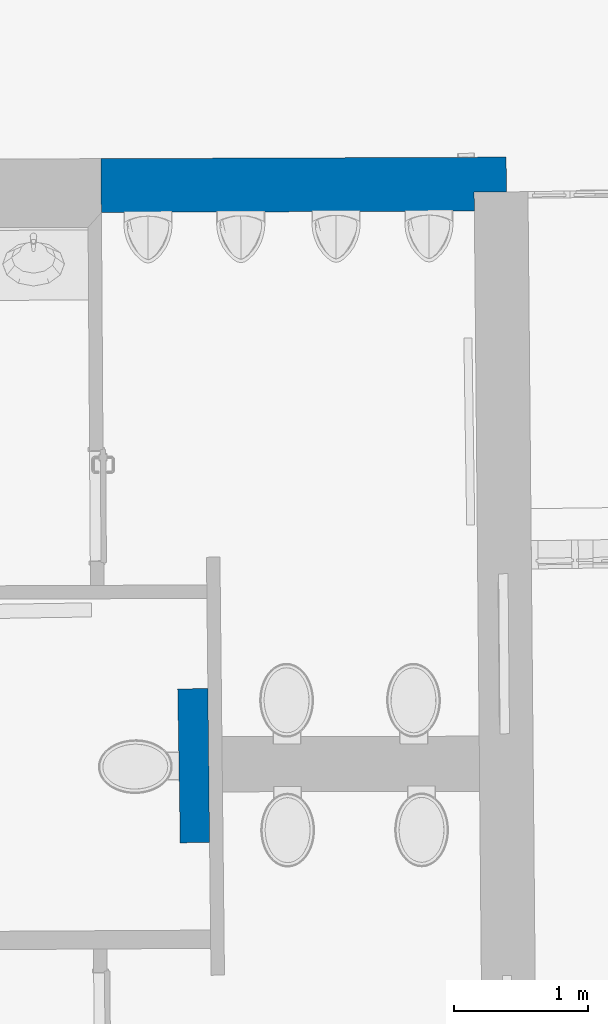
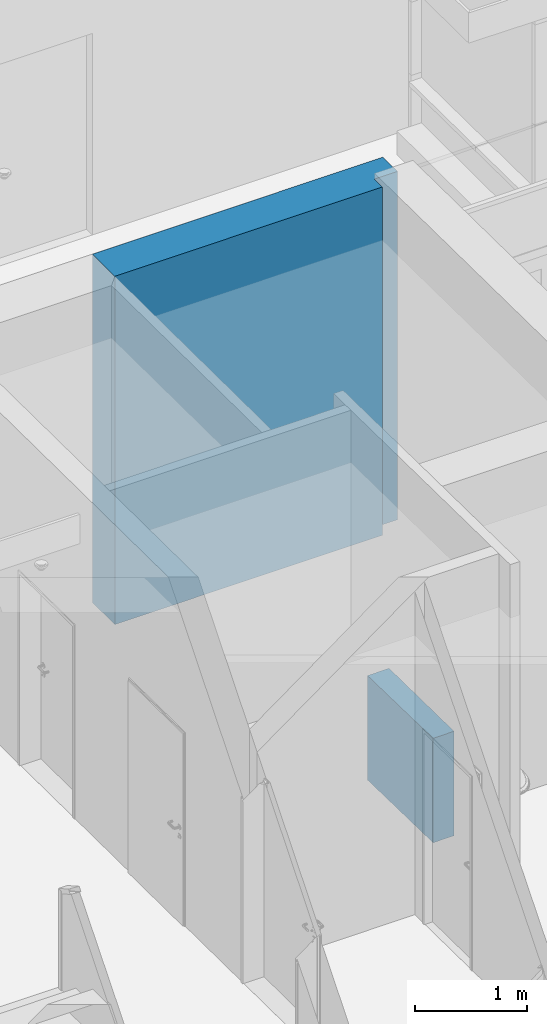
# One storey, part 77 of 196: 2 walls.
"""IFC2X3 building model written with IfcOpenShell, lengths in metres."""

from ifc_helpers import new_model, entity, si_unit, converted_unit, derived_unit, money_unit, direction, frame, origin_with_axes, place, context, subcontext, project, spatial, polyline, outline, extrude, boolean, faceted_brep, material, type_object, element, save


model = new_model("IFC2X3")

# Units and contexts
model_context = context("Model", 3, precision=1e-05, world=origin_with_axes(), true_north=direction((0.0, 1.0)))
body_context = subcontext(model_context, "Body", "Model", "MODEL_VIEW")
ifc_project = project(units=[si_unit("LENGTHUNIT", "METRE"), si_unit("AREAUNIT", "SQUARE_METRE"), si_unit("VOLUMEUNIT", "CUBIC_METRE"), converted_unit("PLANEANGLEUNIT", "DEGREE", entity("IfcPlaneAngleMeasure", 0.0174532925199), si_unit("PLANEANGLEUNIT", "RADIAN"), dimensions=[0, 0, 0, 0, 0, 0, 0]), money_unit("EUR"), converted_unit("TIMEUNIT", "Year", entity("IfcTimeMeasure", 31556926.0), si_unit("TIMEUNIT", "SECOND"), dimensions=[0, 0, 1, 0, 0, 0, 0]), si_unit("MASSUNIT", "GRAM", prefix="KILO"), si_unit("THERMODYNAMICTEMPERATUREUNIT", "DEGREE_CELSIUS"), si_unit("LUMINOUSINTENSITYUNIT", "LUMEN"), si_unit("ENERGYUNIT", "JOULE", prefix="MEGA"), derived_unit("THERMALCONDUCTANCEUNIT", [(si_unit("POWERUNIT", "WATT"), 1), (si_unit("LENGTHUNIT", "METRE"), -1), (si_unit("THERMODYNAMICTEMPERATUREUNIT", "KELVIN"), -1)]), derived_unit("SPECIFICHEATCAPACITYUNIT", [(si_unit("ENERGYUNIT", "JOULE"), 1), (si_unit("MASSUNIT", "GRAM", prefix="KILO"), -1), (si_unit("THERMODYNAMICTEMPERATUREUNIT", "KELVIN"), -1)]), derived_unit("MASSDENSITYUNIT", [(si_unit("MASSUNIT", "GRAM", prefix="KILO"), 1), (si_unit("VOLUMEUNIT", "CUBIC_METRE"), -1)])], contexts=[model_context])

# Site, building, storey
site_placement = place(None, origin_with_axes())
site = spatial("IfcSite", under=ifc_project, at=site_placement, Name="Gelände", CompositionType="ELEMENT")
building_placement = place(site_placement, origin_with_axes())
building = spatial("IfcBuilding", under=site, at=building_placement, Name="Gebäude", CompositionType="ELEMENT")
storey_placement = place(building_placement, frame((0.0, 0.0, -3.0), z_axis=(0.0, 0.0, 1.0), x_axis=(1.0, 0.0, 0.0)))
storey = spatial("IfcBuildingStorey", under=building, at=storey_placement, Name="KELLERGESCHOSS", CompositionType="ELEMENT", Elevation=-3.0)

# Walls
ifc_material_1 = material(Name="05_ALLGEMEIN - TRAGENDE BAUTEILE")
wall_type_1 = type_object("IfcWallType", Name="05_ALLGEMEIN - TRAGENDE BAUTEILE 400", PredefinedType="ELEMENTEDWALL")
wall_1_placement = place(storey_placement, frame((-21.7581002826, 42.5799802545, 0.25), z_axis=(0.0, 0.0, 1.0), x_axis=(0.999992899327, 0.00376846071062, 0.0)))
element("IfcWall", 1, at=wall_1_placement, inside=storey, type_object=wall_type_1, material=ifc_material_1, Name="Wand-030", ObjectType="ELEMENTEDWALL", context=body_context, shape_type="CSG", body=[
    boolean("DIFFERENCE", extrude(outline(polyline([(0.0, -0.4), (3.01446931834, -0.4), (3.01446931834, 0.0), (0.0, 0.0), (0.0, -0.4)])), origin_with_axes(), (0.0, 0.0, 1.0), 3.81), faceted_brep([(2.77371273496, -0.259525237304, 3.81), (2.77446586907, -0.4, 3.81), (3.01446931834, -0.4, 3.81), (3.01446931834, 0.0, 3.81), (3.01232477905, 0.0, 3.81), (3.01370928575, -0.258238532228, 3.81), (2.77446586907, -0.4, 0.0), (2.77371273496, -0.259525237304, 0.0), (3.01446931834, -0.4, 0.0), (3.01446931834, 0.0, 0.0), (3.01232477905, 0.0, 0.0), (3.01370928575, -0.258238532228, 0.0)], [[[0, 1, 2, 3, 4, 5]], [[6, 1, 0, 7]], [[1, 6, 8, 2]], [[2, 8, 9, 3]], [[10, 4, 3, 9]], [[5, 4, 10, 11]], [[0, 5, 11, 7]], [[11, 10, 9, 8, 6, 7]]])),
])
ifc_material_2 = material(Name="43_Gipskarton")
wall_type_2 = type_object("IfcWallType", Name="43_Gipskarton 230", PredefinedType="ELEMENTEDWALL")
wall_2_placement = place(storey_placement, frame((-21.188049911, 38.6362115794, 0.5), z_axis=(0.0, 0.0, 1.0), x_axis=(0.0163654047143, -0.999866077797, 0.0)))
element("IfcWall", 2, at=wall_2_placement, inside=storey, type_object=wall_type_2, material=ifc_material_2, Name="Wand-030", ObjectType="ELEMENTEDWALL", context=body_context, shape_type="CSG", body=[
    boolean("DIFFERENCE", extrude(outline(polyline([(0.0, 0.0), (1.14435468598, 0.0), (1.14435468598, 0.23), (0.0, 0.23), (0.0, 0.0)])), origin_with_axes(), (0.0, 0.0, 1.0), 1.14233411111), faceted_brep([(0.0, 0.224407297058, 1.14233411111), (1.14435468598, 0.218137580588, 1.14233411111), (1.14435468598, 0.23, 1.14233411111), (0.0, 0.23, 1.14233411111), (1.14435468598, 0.218137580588, 0.0), (0.0, 0.224407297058, 0.0), (1.14435468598, 0.23, 0.0), (0.0, 0.23, 0.0)], [[[0, 1, 2, 3]], [[4, 1, 0, 5]], [[1, 4, 6, 2]], [[2, 6, 7, 3]], [[5, 0, 3, 7]], [[4, 5, 7, 6]]])),
])

save(model, "model.ifc")
